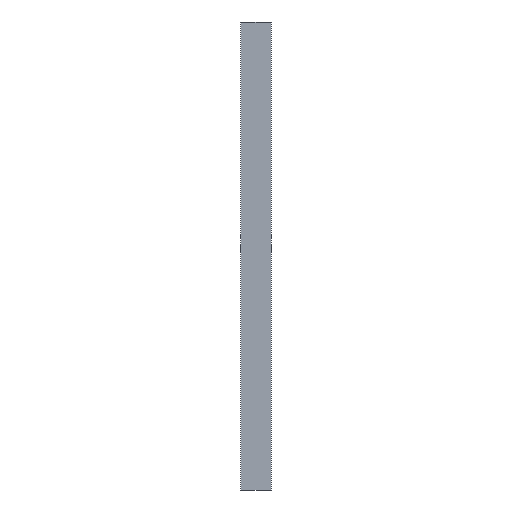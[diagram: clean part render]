
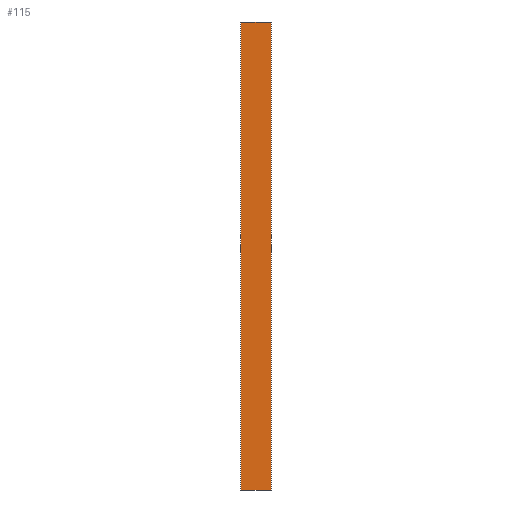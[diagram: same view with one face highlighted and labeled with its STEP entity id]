
A CAD part, front view. The second image highlights one B-rep face of the part: STEP entity #115.
In plain terms, the highlighted planar face has unit normal (0, -1, 0).
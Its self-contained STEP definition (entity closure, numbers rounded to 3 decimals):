
#39 = EDGE_CURVE('',#40,#42,#44,.T.);
#40 = VERTEX_POINT('',#41);
#41 = CARTESIAN_POINT('',(67.24,100.,7.7));
#42 = VERTEX_POINT('',#43);
#43 = CARTESIAN_POINT('',(67.24,100.,11.7));
#44 = LINE('',#45,#46);
#45 = CARTESIAN_POINT('',(67.24,100.,7.7));
#46 = VECTOR('',#47,1.);
#47 = DIRECTION('',(0.,0.,1.));
#79 = EDGE_CURVE('',#80,#82,#84,.T.);
#80 = VERTEX_POINT('',#81);
#81 = CARTESIAN_POINT('',(67.5,100.,7.7));
#82 = VERTEX_POINT('',#83);
#83 = CARTESIAN_POINT('',(67.5,100.,11.7));
#84 = LINE('',#85,#86);
#85 = CARTESIAN_POINT('',(67.5,100.,7.7));
#86 = VECTOR('',#87,1.);
#87 = DIRECTION('',(0.,0.,1.));
#115 = ADVANCED_FACE('',(#116),#132,.F.);
#116 = FACE_BOUND('',#117,.F.);
#117 = EDGE_LOOP('',(#118,#124,#125,#131));
#118 = ORIENTED_EDGE('',*,*,#119,.F.);
#119 = EDGE_CURVE('',#40,#80,#120,.T.);
#120 = LINE('',#121,#122);
#121 = CARTESIAN_POINT('',(67.24,100.,7.7));
#122 = VECTOR('',#123,1.);
#123 = DIRECTION('',(1.,0.,-0.));
#124 = ORIENTED_EDGE('',*,*,#39,.T.);
#125 = ORIENTED_EDGE('',*,*,#126,.T.);
#126 = EDGE_CURVE('',#42,#82,#127,.T.);
#127 = LINE('',#128,#129);
#128 = CARTESIAN_POINT('',(67.24,100.,11.7));
#129 = VECTOR('',#130,1.);
#130 = DIRECTION('',(1.,0.,-0.));
#131 = ORIENTED_EDGE('',*,*,#79,.F.);
#132 = PLANE('',#133);
#133 = AXIS2_PLACEMENT_3D('',#134,#135,#136);
#134 = CARTESIAN_POINT('',(67.24,100.,7.7));
#135 = DIRECTION('',(-0.,1.,0.));
#136 = DIRECTION('',(0.,0.,1.));
